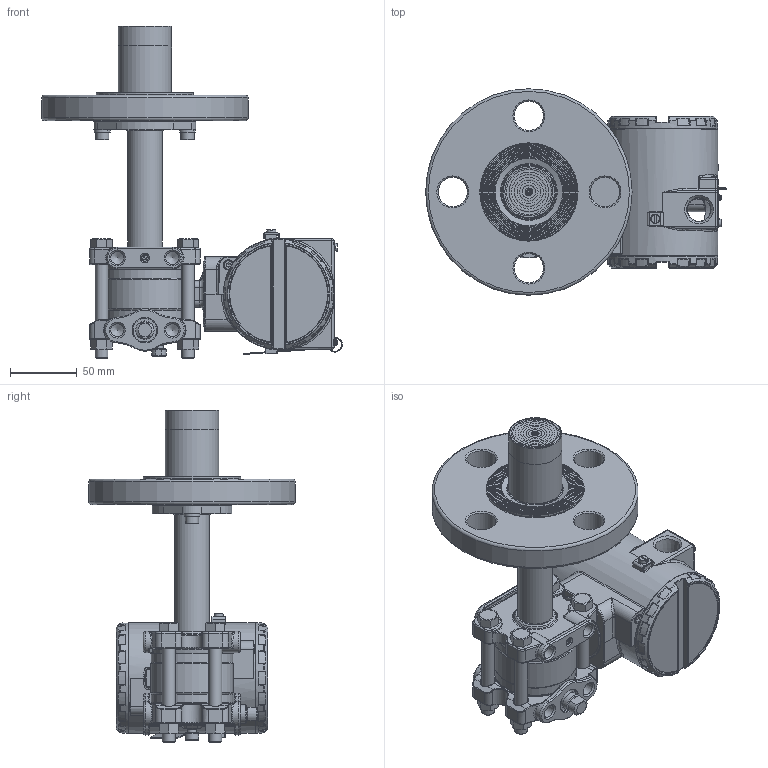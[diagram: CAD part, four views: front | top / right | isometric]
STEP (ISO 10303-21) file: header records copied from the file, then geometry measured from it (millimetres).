
FILE_DESCRIPTION(/* description */ (''),/* implementation_level */ '2;1');
FILE_NAME(/* name */ 'F:\Area\Desenvolvimento_2\Projects\Sensor\projetos\LD30X\montagens 3d - clientes\SELO NIVEL\LD30XL 1-1-2-300 RF ext 50 ref 1-4NPT purga acima.stp',/* time_stamp */ '2023-02-10T14:37:28-03:00',/* author */ ('inventor02'),/* organization */ (''),/* preprocessor_version */ 'ST-DEVELOPER v17',/* originating_system */ 'Autodesk Inventor 2019',/* authorisation */ '');
FILE_SCHEMA (('CONFIG_CONTROL_DESIGN'));
Products named in the file (41): LD30XL 1-1-2-300 RF ext 50 ref 1-4NPT purga acima; 204-0301-L-1-1-2 300 RF ext 50 purga acima; nivel fx3 com baixa diferencial 1-4NPT purga acima; involucro fx0-3 apos a usinagem final; flange diferencial std purga; 101-C-7484-01 flange selo nivel VR; 201-A-0504-tubo união teste 1; bujao 1-4NPT; Sangria; Porca 3-8 x 16 UNC; Paraf. 3-8 x 16 UNC; adaptação tubo x flanges 1-1-2 a 4pol; 101-B-0161-anel cortado do tubo - teste1; 101-B-0162-flange fixação tubo; ANSI B18.3.1M - M6x1 x 16; DIN 127 - A 6; flange 1-1-2 300 ext 50; 101-B-7699-01 ext 1-1-2-50; 101-B-5190-03; 101-C-3331-02; carcaça vazia com tampas e plaqueta; carcaça LD inox sem letras; Subconjunto plaqueta 300; Plaqueta transmissor; Parafuso da Plaqueta; Rebite da Plaqueta; 096-A-0169-03; 101-A-0502-01; Chapa aterramento externo; ISO 1207 - M4 x 8; DIN 915 - M6 x 10; ANSI B18.3.1M - M4x0,7 x 8; Subconjunto tampa com visor aluminio; tampa pintada; VIDRO DO VISOR; oring 41x1 vidro tampa; Trava do vidro da tampa com visor; trava do vidro VH256; Subconjunto tampa sem visor-aluminio; tampa cega 300 pintada p0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
Assembly tree (51 placements, depth 4):
  LD30XL 1-1-2-300 RF ext 50 ref 1-4NPT purga acima
    204-0301-L-1-1-2 300 RF ext 50 purga acima
      nivel fx3 com baixa diferencial 1-4NPT purga acima
        involucro fx0-3 apos a usinagem final
        flange diferencial std purga
        101-C-7484-01 flange selo nivel VR
        201-A-0504-tubo união teste 1
        DIN 915 - M6 x 10
        bujao 1-4NPT
        Sangria
        Porca 3-8 x 16 UNC  x4
        Paraf. 3-8 x 16 UNC  x4
      adaptação tubo x flanges 1-1-2 a 4pol
        101-B-0161-anel cortado do tubo - teste1
        101-B-0162-flange fixação tubo
        ANSI B18.3.1M - M6x1 x 16  x2
        DIN 127 - A 6  x2
      flange 1-1-2 300 ext 50
        101-B-7699-01 ext 1-1-2-50
        101-B-5190-03
        101-C-3331-02
    carcaça vazia com tampas e plaqueta
      carcaça LD inox sem letras
      Subconjunto plaqueta 300
        Plaqueta transmissor
        Parafuso da Plaqueta
        Rebite da Plaqueta
        096-A-0169-03
        101-A-0502-01
      Chapa aterramento externo
      ISO 1207 - M4 x 8
      DIN 915 - M6 x 10
      ANSI B18.3.1M - M4x0,7 x 8  x2
      Subconjunto tampa com visor aluminio
        tampa pintada
        VIDRO DO VISOR
        oring 41x1 vidro tampa
        Trava do vidro da tampa com visor
        trava do vidro VH256
        00034775-0
      Subconjunto tampa sem visor-aluminio
        tampa cega 300 pintada p0
        00034775-0
Bounding box: 225.77 x 155 x 249.3 mm (x, y, z)
Volume: 964860.3 mm3; surface area: 319596.2 mm2
Topology: 43 solids, 43 shells, 2726 faces, 6537 edges, 3867 vertices
Faces by surface type: bspline 667, cylinder 656, plane 560, torus 469, cone 248, sphere 126
Full cylindrical faces by diameter (mm): 2 x4, 2.1 x2, 2.459 x5, 2.5 x1, 2.642 x1, 2.7 x1, 2.8 x1, 3 x4, 3.242 x4, 3.5 x5, 3.571 x1, 4 x5, 4.3 x1, 4.4 x1, 4.917 x4, 5 x1, 5.5 x3, 6 x6, 6.647 x1, 7 x7, 7.087 x2, 7.6 x2, 7.798 x4, 8 x1, 8.7 x2, 9.525 x4, 9.728 x6, 10 x2, 10.5 x8, 10.719 x2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
Entity records: 94293 total; most frequent: CARTESIAN_POINT 34605, DIRECTION 12303, ORIENTED_EDGE 12254, EDGE_CURVE 6127, AXIS2_PLACEMENT_3D 5430, VERTEX_POINT 3673, CIRCLE 3215, EDGE_LOOP 2766
